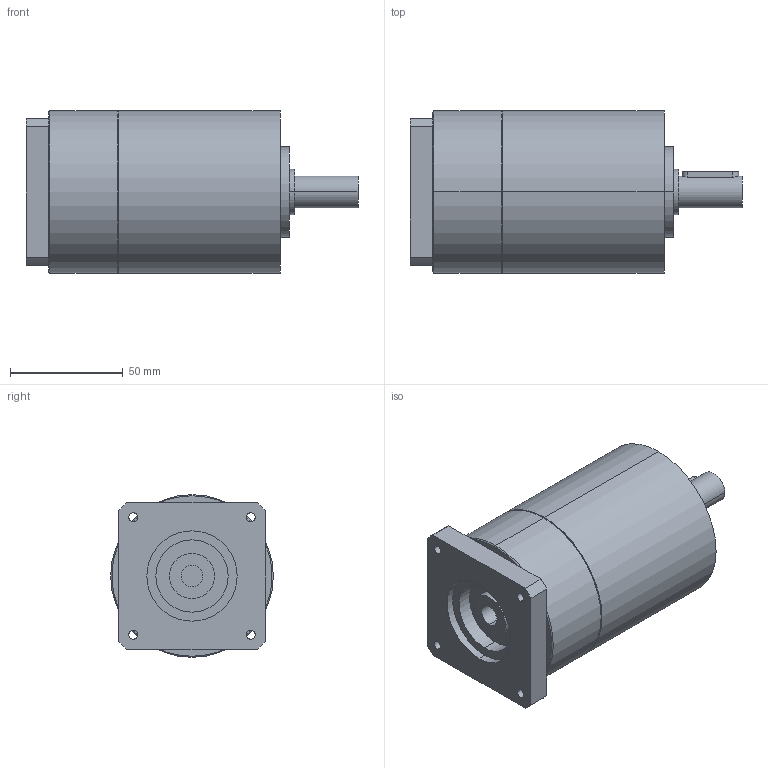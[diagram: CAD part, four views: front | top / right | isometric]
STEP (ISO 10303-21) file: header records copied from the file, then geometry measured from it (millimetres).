
FILE_DESCRIPTION(('CoCreate Modeling STEP Export'),'2;1');
FILE_NAME('GPT75_ig-9-12-16-20-25-28-35-40-50-70-100_14_B14T_9.52_P34.stp','2014-08-27T13:26:54',(''),(''),'CoCreate Modeling STEP processor for AP214 (Solid Model)','CoCreate Modeling 16.00C 25-Feb-2009 (C) Parametric Technology GmbH','');
FILE_SCHEMA(('AUTOMOTIVE_DESIGN { 1 0 10303 214 1 1 1 1 }'));
Length unit declared in the file: millimetre
Products named in the file (2): GPT75_ig-9-12-16-20-25-28-35-40-50-70-100_14_B14T_9.52_P34
Assembly tree (1 placements, depth 2):
  GPT75_ig-9-12-16-20-25-28-35-40-50-70-100_14_B14T_9.52_P34
    GPT75_ig-9-12-16-20-25-28-35-40-50-70-100_14_B14T_9.52_P34
Bounding box: 147 x 72 x 72 mm (x, y, z)
Volume: 457326.8 mm3; surface area: 40402.3 mm2
Topology: 1 solids, 1 shells, 80 faces, 198 edges, 129 vertices
Faces by surface type: cylinder 42, plane 34, cone 4
Entity records: 2353 total; most frequent: CARTESIAN_POINT 689, ORIENTED_EDGE 396, DIRECTION 276, EDGE_CURVE 198, VERTEX_POINT 129, AXIS2_PLACEMENT_3D 104, EDGE_LOOP 97, FACE_OUTER_BOUND 80
